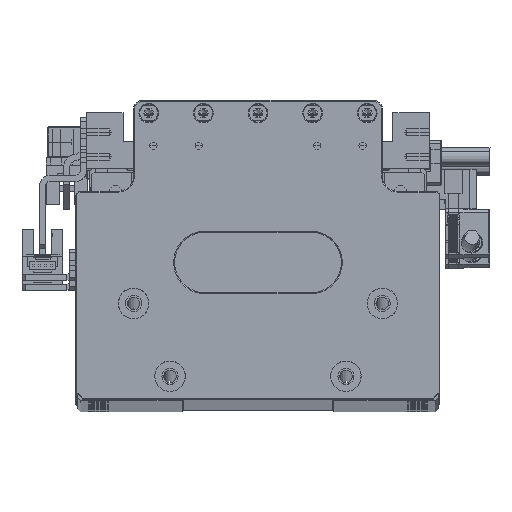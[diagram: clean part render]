
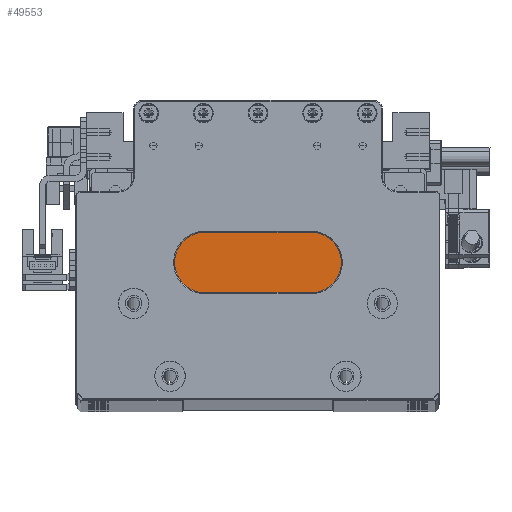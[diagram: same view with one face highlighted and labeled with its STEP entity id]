
A CAD part, top view. The second image highlights one B-rep face of the part: STEP entity #49553.
In plain terms, the highlighted planar face has unit normal (0, 0, 1).
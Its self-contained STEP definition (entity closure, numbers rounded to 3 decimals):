
#244 = VECTOR ( 'NONE', #65352, 1000. ) ;
#255 = EDGE_CURVE ( 'NONE', #70171, #6454, #96532, .T. ) ;
#1201 = CARTESIAN_POINT ( 'NONE',  ( -23.132, -17.023, 340. ) ) ;
#2239 = CARTESIAN_POINT ( 'NONE',  ( 2.868, -17.023, 340. ) ) ;
#3206 = ORIENTED_EDGE ( 'NONE', *, *, #100435, .T. ) ;
#5197 = VERTEX_POINT ( 'NONE', #115747 ) ;
#5356 = AXIS2_PLACEMENT_3D ( 'NONE', #107625, #48198, #117620 ) ;
#6454 = VERTEX_POINT ( 'NONE', #48244 ) ;
#6455 = DIRECTION ( 'NONE',  ( 0., 0., 1. ) ) ;
#11472 = ORIENTED_EDGE ( 'NONE', *, *, #93846, .T. ) ;
#11740 = CARTESIAN_POINT ( 'NONE',  ( 25.168, -9.023, 340. ) ) ;
#12175 = DIRECTION ( 'NONE',  ( 1., 0., 0. ) ) ;
#14608 = CARTESIAN_POINT ( 'NONE',  ( -13.382, -17.023, 340. ) ) ;
#14881 = EDGE_LOOP ( 'NONE', ( #25642, #57381 ) ) ;
#14955 = CARTESIAN_POINT ( 'NONE',  ( -23.132, -9.023, 340. ) ) ;
#14978 = CARTESIAN_POINT ( 'NONE',  ( 25.168, -17.023, 340. ) ) ;
#16432 = CARTESIAN_POINT ( 'NONE',  ( -4.632, -9.023, 340. ) ) ;
#16516 = FACE_BOUND ( 'NONE', #54036, .T. ) ;
#17323 = ORIENTED_EDGE ( 'NONE', *, *, #127342, .T. ) ;
#18173 = CARTESIAN_POINT ( 'NONE',  ( -10.882, -17.023, 340. ) ) ;
#19148 = VERTEX_POINT ( 'NONE', #100389 ) ;
#19742 = CARTESIAN_POINT ( 'NONE',  ( 2.868, -17.023, 340. ) ) ;
#20488 = VECTOR ( 'NONE', #37292, 1000. ) ;
#22410 = CARTESIAN_POINT ( 'NONE',  ( 4.118, -17.023, 340. ) ) ;
#22475 = CARTESIAN_POINT ( 'NONE',  ( -34.432, -9.023, 340. ) ) ;
#23213 = EDGE_CURVE ( 'NONE', #19148, #33079, #97884, .T. ) ;
#25642 = ORIENTED_EDGE ( 'NONE', *, *, #52588, .T. ) ;
#27232 = DIRECTION ( 'NONE',  ( 0., 1., 0. ) ) ;
#28138 = EDGE_CURVE ( 'NONE', #120322, #127357, #100152, .T. ) ;
#28620 = VECTOR ( 'NONE', #121843, 1000. ) ;
#29722 = DIRECTION ( 'NONE',  ( 1., 0., 0. ) ) ;
#31268 = EDGE_LOOP ( 'NONE', ( #102697, #35136, #117878, #11472, #80014, #32889, #17323, #115475 ) ) ;
#32889 = ORIENTED_EDGE ( 'NONE', *, *, #65812, .T. ) ;
#33079 = VERTEX_POINT ( 'NONE', #82928 ) ;
#33357 = CARTESIAN_POINT ( 'NONE',  ( -4.632, -9.223, 340. ) ) ;
#34482 = CIRCLE ( 'NONE', #5356, 1.25 ) ;
#35136 = ORIENTED_EDGE ( 'NONE', *, *, #88977, .T. ) ;
#36402 = DIRECTION ( 'NONE',  ( 1., 0., 0. ) ) ;
#36537 = VECTOR ( 'NONE', #86569, 1000. ) ;
#37292 = DIRECTION ( 'NONE',  ( 1., 0., 0. ) ) ;
#40254 = CARTESIAN_POINT ( 'NONE',  ( -12.132, -17.023, 340. ) ) ;
#43037 = CARTESIAN_POINT ( 'NONE',  ( -23.132, -9.223, 340. ) ) ;
#45081 = VECTOR ( 'NONE', #27232, 1000. ) ;
#47719 = DIRECTION ( 'NONE',  ( -1., 0., 0. ) ) ;
#48198 = DIRECTION ( 'NONE',  ( 0., 0., -1. ) ) ;
#48244 = CARTESIAN_POINT ( 'NONE',  ( 25.168, -49.023, 340. ) ) ;
#49553 = ADVANCED_FACE ( 'NONE', ( #95703, #16516, #69317 ), #95833, .T. ) ;
#50212 = DIRECTION ( 'NONE',  ( 1., 0., 0. ) ) ;
#52588 = EDGE_CURVE ( 'NONE', #127357, #120322, #34482, .T. ) ;
#54036 = EDGE_LOOP ( 'NONE', ( #3206, #124074 ) ) ;
#54937 = LINE ( 'NONE', #22475, #28620 ) ;
#57381 = ORIENTED_EDGE ( 'NONE', *, *, #28138, .T. ) ;
#60228 = VECTOR ( 'NONE', #81203, 1000. ) ;
#65352 = DIRECTION ( 'NONE',  ( -1., 0., 0. ) ) ;
#65812 = EDGE_CURVE ( 'NONE', #6454, #73667, #109974, .T. ) ;
#66435 = EDGE_CURVE ( 'NONE', #33079, #105251, #86564, .T. ) ;
#69317 = FACE_BOUND ( 'NONE', #14881, .T. ) ;
#70171 = VERTEX_POINT ( 'NONE', #70175 ) ;
#70175 = CARTESIAN_POINT ( 'NONE',  ( -34.432, -49.023, 340. ) ) ;
#71639 = DIRECTION ( 'NONE',  ( 0., 0., -1. ) ) ;
#73667 = VERTEX_POINT ( 'NONE', #14978 ) ;
#76472 = AXIS2_PLACEMENT_3D ( 'NONE', #19742, #89148, #29722 ) ;
#76790 = LINE ( 'NONE', #97144, #126564 ) ;
#80014 = ORIENTED_EDGE ( 'NONE', *, *, #255, .T. ) ;
#81203 = DIRECTION ( 'NONE',  ( 0., 1., 0. ) ) ;
#81546 = AXIS2_PLACEMENT_3D ( 'NONE', #16432, #6455, #36402 ) ;
#82928 = CARTESIAN_POINT ( 'NONE',  ( 13.868, -9.223, 340. ) ) ;
#86564 = LINE ( 'NONE', #33357, #109858 ) ;
#86569 = DIRECTION ( 'NONE',  ( 0., -1., 0. ) ) ;
#86681 = CARTESIAN_POINT ( 'NONE',  ( 13.868, -9.023, 340. ) ) ;
#88977 = EDGE_CURVE ( 'NONE', #105251, #98297, #89333, .T. ) ;
#89148 = DIRECTION ( 'NONE',  ( 0., 0., -1. ) ) ;
#89333 = LINE ( 'NONE', #14955, #36537 ) ;
#89531 = CIRCLE ( 'NONE', #116434, 1.25 ) ;
#90894 = EDGE_CURVE ( 'NONE', #5197, #111069, #99783, .T. ) ;
#93846 = EDGE_CURVE ( 'NONE', #103444, #70171, #54937, .T. ) ;
#95703 = FACE_OUTER_BOUND ( 'NONE', #31268, .T. ) ;
#95824 = EDGE_CURVE ( 'NONE', #98297, #103444, #99578, .T. ) ;
#95833 = PLANE ( 'NONE',  #81546 ) ;
#96532 = LINE ( 'NONE', #96695, #20488 ) ;
#96695 = CARTESIAN_POINT ( 'NONE',  ( -34.632, -49.023, 340. ) ) ;
#97144 = CARTESIAN_POINT ( 'NONE',  ( -4.632, -17.023, 340. ) ) ;
#97884 = LINE ( 'NONE', #86681, #45081 ) ;
#98297 = VERTEX_POINT ( 'NONE', #1201 ) ;
#99578 = LINE ( 'NONE', #124870, #244 ) ;
#99783 = CIRCLE ( 'NONE', #76472, 1.25 ) ;
#100152 = CIRCLE ( 'NONE', #117303, 1.25 ) ;
#100389 = CARTESIAN_POINT ( 'NONE',  ( 13.868, -17.023, 340. ) ) ;
#100435 = EDGE_CURVE ( 'NONE', #111069, #5197, #89531, .T. ) ;
#102697 = ORIENTED_EDGE ( 'NONE', *, *, #66435, .T. ) ;
#102742 = DIRECTION ( 'NONE',  ( -1., 0., 0. ) ) ;
#103444 = VERTEX_POINT ( 'NONE', #122027 ) ;
#105251 = VERTEX_POINT ( 'NONE', #43037 ) ;
#107625 = CARTESIAN_POINT ( 'NONE',  ( -12.132, -17.023, 340. ) ) ;
#109686 = DIRECTION ( 'NONE',  ( 0., 0., -1. ) ) ;
#109858 = VECTOR ( 'NONE', #102742, 1000. ) ;
#109974 = LINE ( 'NONE', #11740, #60228 ) ;
#111069 = VERTEX_POINT ( 'NONE', #22410 ) ;
#115475 = ORIENTED_EDGE ( 'NONE', *, *, #23213, .T. ) ;
#115747 = CARTESIAN_POINT ( 'NONE',  ( 1.618, -17.023, 340. ) ) ;
#116434 = AXIS2_PLACEMENT_3D ( 'NONE', #2239, #71639, #12175 ) ;
#117303 = AXIS2_PLACEMENT_3D ( 'NONE', #40254, #109686, #50212 ) ;
#117620 = DIRECTION ( 'NONE',  ( 1., 0., 0. ) ) ;
#117878 = ORIENTED_EDGE ( 'NONE', *, *, #95824, .T. ) ;
#120322 = VERTEX_POINT ( 'NONE', #14608 ) ;
#121843 = DIRECTION ( 'NONE',  ( 0., -1., 0. ) ) ;
#122027 = CARTESIAN_POINT ( 'NONE',  ( -34.432, -17.023, 340. ) ) ;
#124074 = ORIENTED_EDGE ( 'NONE', *, *, #90894, .T. ) ;
#124870 = CARTESIAN_POINT ( 'NONE',  ( -4.632, -17.023, 340. ) ) ;
#126564 = VECTOR ( 'NONE', #47719, 1000. ) ;
#127342 = EDGE_CURVE ( 'NONE', #73667, #19148, #76790, .T. ) ;
#127357 = VERTEX_POINT ( 'NONE', #18173 ) ;
